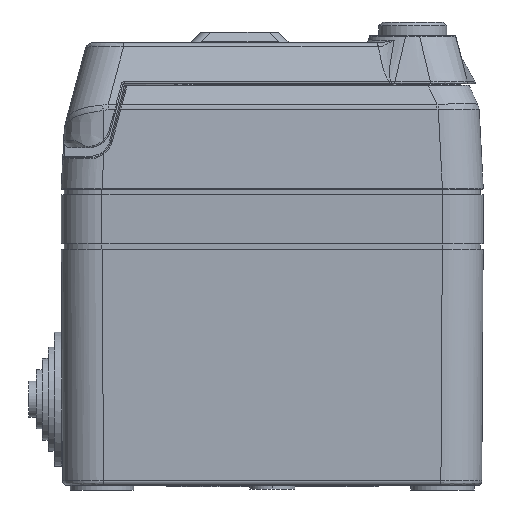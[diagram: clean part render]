
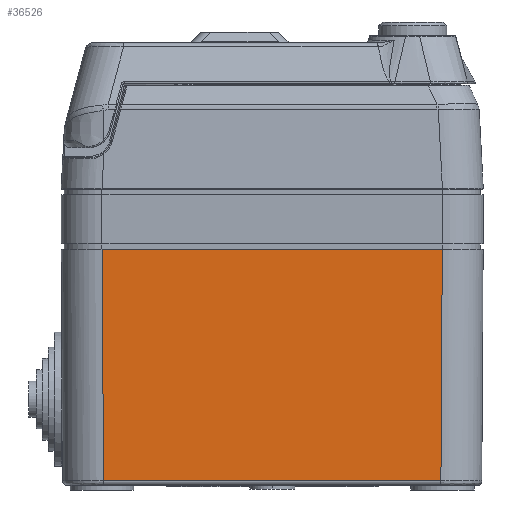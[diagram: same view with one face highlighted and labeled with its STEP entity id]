
A CAD part, left-side view. The second image highlights one B-rep face of the part: STEP entity #36526.
In plain terms, the highlighted planar face has unit normal (-1, 0, -0.006).
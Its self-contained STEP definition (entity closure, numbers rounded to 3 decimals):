
#5415=CARTESIAN_POINT('',(-44.666,-37.166,
0.994));
#5420=DIRECTION('',(0.,1.,0.));
#5421=VECTOR('',#5420,74.332);
#5422=CARTESIAN_POINT('',(-44.666,-37.166,
0.994));
#5423=LINE('5439',#5422,#5421);
#5427=DIRECTION('',(0.006,-0.006,-1.));
#5428=VECTOR('',#5427,51.008);
#5429=CARTESIAN_POINT('',(-44.963,37.463,52.));
#5430=LINE('5444',#5429,#5428);
#5434=DIRECTION('',(0.006,0.006,-1.));
#5435=VECTOR('',#5434,51.008);
#5436=CARTESIAN_POINT('',(-44.963,-37.463,52.));
#5437=LINE('5443',#5436,#5435);
#5465=CARTESIAN_POINT('',(-44.963,37.463,52.));
#5541=CARTESIAN_POINT('',(-44.963,-37.463,52.));
#5546=DIRECTION('',(0.,-1.,0.));
#5547=VECTOR('',#5546,74.926);
#5548=CARTESIAN_POINT('',(-44.963,37.463,52.));
#5549=LINE('5429',#5548,#5547);
#30451=VERTEX_POINT('',#5541);
#30456=VERTEX_POINT('',#5465);
#30487=VERTEX_POINT('',#5415);
#30490=CARTESIAN_POINT('',(-44.666,37.166,
0.994));
#30491=VERTEX_POINT('',#30490);
#36513=CARTESIAN_POINT('',(-45.,48.7,58.4));
#36514=DIRECTION('',(-1.,0.,-0.006));
#36515=DIRECTION('',(0.,-1.,0.));
#36516=AXIS2_PLACEMENT_3D('',#36513,#36514,#36515);
#36517=PLANE('3718',#36516);
#36518=ORIENTED_EDGE('5439',*,*,#36131,.T.);
#36520=ORIENTED_EDGE('5444',*,*,#36519,.F.);
#36522=ORIENTED_EDGE('5429',*,*,#36521,.T.);
#36523=ORIENTED_EDGE('5443',*,*,#36498,.T.);
#36524=EDGE_LOOP('3718',(#36518,#36520,#36522,#36523));
#36525=FACE_OUTER_BOUND('3718',#36524,.F.);
#36131=EDGE_CURVE('5439',#30487,#30491,#5423,.T.);
#36498=EDGE_CURVE('5443',#30451,#30487,#5437,.T.);
#36519=EDGE_CURVE('5444',#30456,#30491,#5430,.T.);
#36521=EDGE_CURVE('5429',#30456,#30451,#5549,.T.);
#36526=ADVANCED_FACE('3718',(#36525),#36517,.T.);
